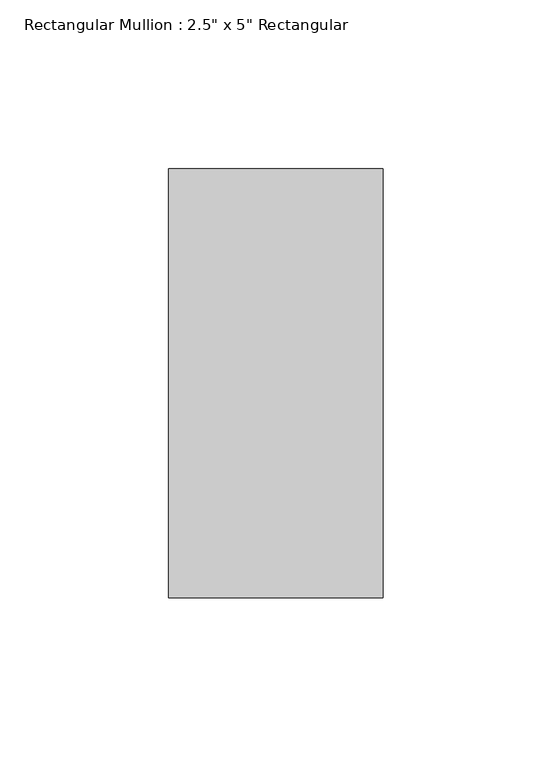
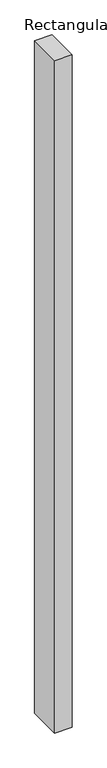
"""IFC4 building model written with IfcOpenShell, lengths in millimetres: member geometry."""

from ifc_helpers import new_model, si_unit, frame, origin, place, context, project, spatial, polyline, outline, extrude, source, transform, mapped, element, save


def member_e69b4e5a(model_context):
    return source(origin(), model_context, "Body", "SweptSolid", [
        extrude(outline(polyline([(31.75, 63.5), (31.75, -63.5), (-31.75, -63.5), (-31.75, 63.5), (31.75, 63.5)])), frame((0.0, 0.0, -2595.5625), z_axis=(0.0, 0.0, 1.0), x_axis=(1.0, 0.0, 0.0)), (0.0, 0.0, 1.0), 2595.5625),
    ])


if __name__ == "__main__":
    model = new_model("IFC4")
    model_context = context("Model", 3, world=origin())
    ifc_project = project(units=[si_unit("LENGTHUNIT", "METRE", prefix="MILLI")], contexts=[model_context])
    site = spatial("IfcSite", under=ifc_project)
    building = spatial("IfcBuilding", under=site)
    placement = place(None, origin())
    member_shape = member_e69b4e5a(model_context)
    element("IfcMember", 1, ObjectType="Rectangular Mullion : 2.5\" x 5\" Rectangular", at=placement, inside=building, context=model_context, shape_type="MappedRepresentation", body=[
        mapped(member_shape, transform((0.0, 0.0, 0.0), x_axis=(1.0, 0.0, 0.0), y_axis=(0.0, 1.0, 0.0), z_axis=(0.0, 0.0, 1.0))),
    ])
    save(model, "model.ifc")
